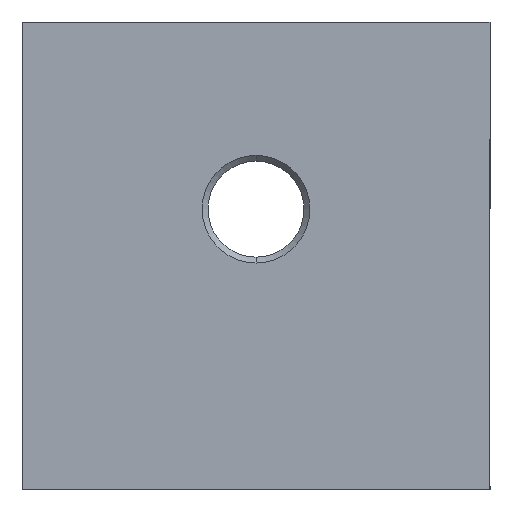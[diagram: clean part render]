
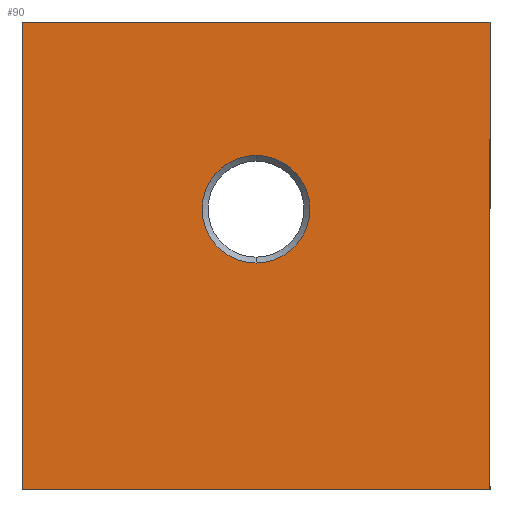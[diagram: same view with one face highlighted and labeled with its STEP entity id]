
A CAD part, front view. The second image highlights one B-rep face of the part: STEP entity #90.
In plain terms, the highlighted planar face has unit normal (0, -1, 0).
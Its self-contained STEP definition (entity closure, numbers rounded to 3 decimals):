
#6 = CARTESIAN_POINT ( 'NONE',  ( 0., 0., 4. ) ) ;
#26 = CARTESIAN_POINT ( 'NONE',  ( 0., 0., 0. ) ) ;
#29 = ORIENTED_EDGE ( 'NONE', *, *, #76, .T. ) ;
#60 = VECTOR ( 'NONE', #662, 1000. ) ;
#61 = CARTESIAN_POINT ( 'NONE',  ( 0., 0., 4. ) ) ;
#74 = DIRECTION ( 'NONE',  ( 0., 0., 1. ) ) ;
#76 = EDGE_CURVE ( 'NONE', #793, #212, #399, .T. ) ;
#83 = LINE ( 'NONE', #650, #639 ) ;
#90 = ADVANCED_FACE ( 'NONE', ( #710, #375 ), #142, .F. ) ;
#106 = LINE ( 'NONE', #437, #638 ) ;
#117 = DIRECTION ( 'NONE',  ( 0., 0., 1. ) ) ;
#119 = EDGE_CURVE ( 'NONE', #736, #296, #864, .T. ) ;
#129 = ORIENTED_EDGE ( 'NONE', *, *, #211, .F. ) ;
#142 = PLANE ( 'NONE',  #682 ) ;
#155 = ORIENTED_EDGE ( 'NONE', *, *, #190, .F. ) ;
#163 = EDGE_LOOP ( 'NONE', ( #505, #129, #155, #191 ) ) ;
#190 = EDGE_CURVE ( 'NONE', #504, #368, #106, .T. ) ;
#191 = ORIENTED_EDGE ( 'NONE', *, *, #575, .F. ) ;
#211 = EDGE_CURVE ( 'NONE', #368, #736, #83, .T. ) ;
#212 = VERTEX_POINT ( 'NONE', #537 ) ;
#243 = CARTESIAN_POINT ( 'NONE',  ( 0., 0., 8.6 ) ) ;
#275 = CARTESIAN_POINT ( 'NONE',  ( -20., 0., 20. ) ) ;
#286 = EDGE_LOOP ( 'NONE', ( #691, #29 ) ) ;
#287 = DIRECTION ( 'NONE',  ( 0., 1., 0. ) ) ;
#291 = EDGE_CURVE ( 'NONE', #212, #793, #738, .T. ) ;
#296 = VERTEX_POINT ( 'NONE', #721 ) ;
#368 = VERTEX_POINT ( 'NONE', #275 ) ;
#375 = FACE_OUTER_BOUND ( 'NONE', #163, .T. ) ;
#391 = DIRECTION ( 'NONE',  ( 0., 0., 1. ) ) ;
#399 = CIRCLE ( 'NONE', #515, 4.6 ) ;
#437 = CARTESIAN_POINT ( 'NONE',  ( -20., 0., -20. ) ) ;
#445 = CARTESIAN_POINT ( 'NONE',  ( -20., 0., -20. ) ) ;
#478 = DIRECTION ( 'NONE',  ( 0., 1., 0. ) ) ;
#504 = VERTEX_POINT ( 'NONE', #445 ) ;
#505 = ORIENTED_EDGE ( 'NONE', *, *, #119, .F. ) ;
#515 = AXIS2_PLACEMENT_3D ( 'NONE', #6, #478, #74 ) ;
#520 = CARTESIAN_POINT ( 'NONE',  ( 20., 0., 20. ) ) ;
#534 = DIRECTION ( 'NONE',  ( 0., 1., 0. ) ) ;
#537 = CARTESIAN_POINT ( 'NONE',  ( 0., 0., -0.6 ) ) ;
#542 = DIRECTION ( 'NONE',  ( 0., 0., -1. ) ) ;
#575 = EDGE_CURVE ( 'NONE', #296, #504, #576, .T. ) ;
#576 = LINE ( 'NONE', #861, #60 ) ;
#588 = VECTOR ( 'NONE', #542, 1000. ) ;
#599 = DIRECTION ( 'NONE',  ( 1., 0., 0. ) ) ;
#638 = VECTOR ( 'NONE', #391, 1000. ) ;
#639 = VECTOR ( 'NONE', #599, 1000. ) ;
#650 = CARTESIAN_POINT ( 'NONE',  ( -20., 0., 20. ) ) ;
#662 = DIRECTION ( 'NONE',  ( -1., 0., 0. ) ) ;
#682 = AXIS2_PLACEMENT_3D ( 'NONE', #26, #287, #759 ) ;
#691 = ORIENTED_EDGE ( 'NONE', *, *, #291, .T. ) ;
#709 = AXIS2_PLACEMENT_3D ( 'NONE', #61, #534, #117 ) ;
#710 = FACE_BOUND ( 'NONE', #286, .T. ) ;
#721 = CARTESIAN_POINT ( 'NONE',  ( 20., 0., -20. ) ) ;
#736 = VERTEX_POINT ( 'NONE', #520 ) ;
#738 = CIRCLE ( 'NONE', #709, 4.6 ) ;
#759 = DIRECTION ( 'NONE',  ( 0., 0., 1. ) ) ;
#793 = VERTEX_POINT ( 'NONE', #243 ) ;
#822 = CARTESIAN_POINT ( 'NONE',  ( 20., 0., -20. ) ) ;
#861 = CARTESIAN_POINT ( 'NONE',  ( -20., 0., -20. ) ) ;
#864 = LINE ( 'NONE', #822, #588 ) ;
